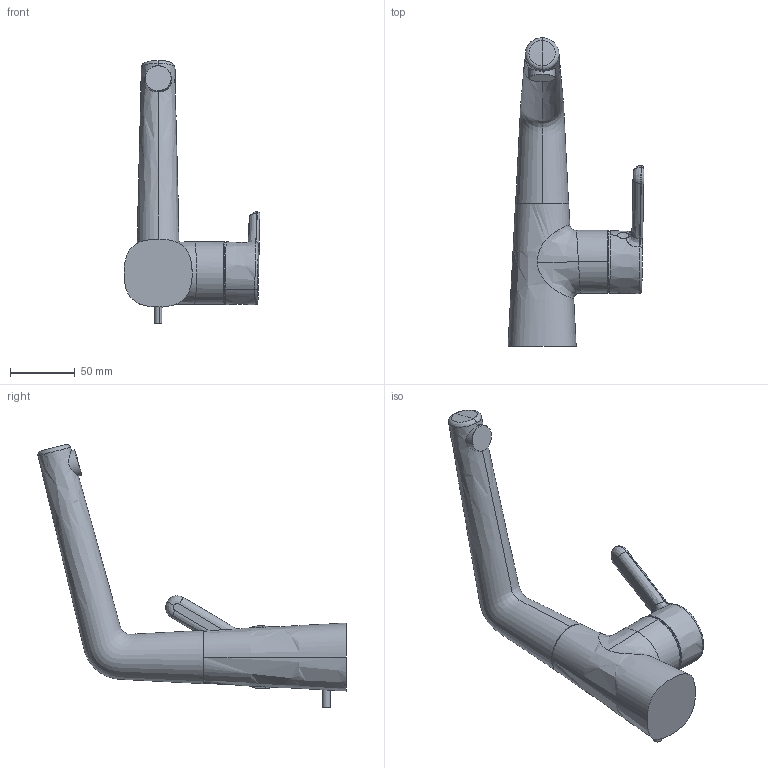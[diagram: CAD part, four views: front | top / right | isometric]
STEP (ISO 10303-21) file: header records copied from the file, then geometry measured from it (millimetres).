
FILE_DESCRIPTION (( 'STEP AP203' ), '1' );
FILE_NAME ('3004F(2017)+51032283.STEP', '2017-11-24T07:40:14', ( '' ), ( '' ), 'SwSTEP 2.0', 'SolidWorks 2016', '' );
FILE_SCHEMA (( 'CONFIG_CONTROL_DESIGN' ));
Length unit declared in the file: millimetre
Products named in the file (1): 3004F(2017)+51032283
Bounding box: 105.07 x 238.21 x 203.28 mm (x, y, z)
Volume: 506391.2 mm3; surface area: 57158.8 mm2
Topology: 1 solids, 1 shells, 60 faces, 149 edges, 97 vertices
Faces by surface type: bspline 30, plane 12, cylinder 11, torus 4, sphere 3
Entity records: 11477 total; most frequent: CARTESIAN_POINT 10223, ORIENTED_EDGE 294, DIRECTION 156, EDGE_CURVE 147, VERTEX_POINT 96, B_SPLINE_CURVE_WITH_KNOTS 81, EDGE_LOOP 67, AXIS2_PLACEMENT_3D 64
